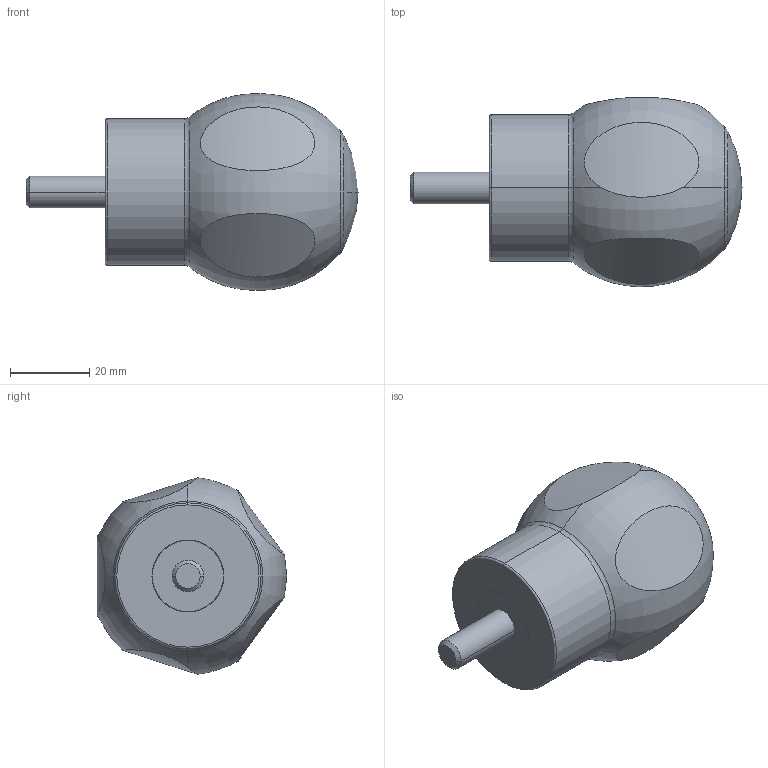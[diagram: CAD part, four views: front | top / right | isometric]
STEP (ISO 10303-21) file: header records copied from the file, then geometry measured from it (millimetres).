
FILE_DESCRIPTION (( 'STEP AP214' ), '1' );
FILE_NAME ('675-50-M8-20.step', '2019-05-08T06:34:14', ( 'user' ), ( '' ), 'SwSTEP 2.0', 'SolidWorks 2019', '' );
FILE_SCHEMA (( 'AUTOMOTIVE_DESIGN' ));
Length unit declared in the file: millimetre
Products named in the file (1): 675-50-M8-20
Bounding box: 84 x 47.92 x 49.75 mm (x, y, z)
Volume: 85034.8 mm3; surface area: 10680.9 mm2
Topology: 1 solids, 1 shells, 29 faces, 60 edges, 39 vertices
Faces by surface type: cylinder 13, torus 8, plane 4, sphere 2, cone 2
Entity records: 1374 total; most frequent: CARTESIAN_POINT 633, DIRECTION 150, ORIENTED_EDGE 120, AXIS2_PLACEMENT_3D 70, EDGE_CURVE 60, CIRCLE 40, VERTEX_POINT 39, EDGE_LOOP 35
